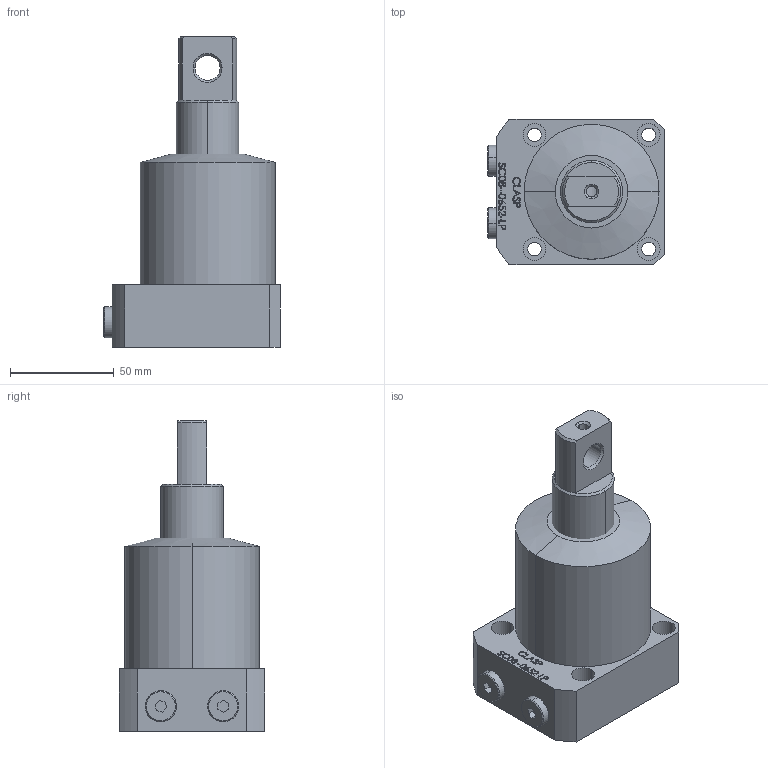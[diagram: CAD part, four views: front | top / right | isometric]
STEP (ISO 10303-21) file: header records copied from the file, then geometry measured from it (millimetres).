
FILE_DESCRIPTION (( 'STEP AP203' ), '1' );
FILE_NAME ('SC08-0652-LP.STEP', '2022-07-08T17:03:40', ( '' ), ( '' ), 'SwSTEP 2.0', 'SolidWorks 2017', '' );
FILE_SCHEMA (( 'CONFIG_CONTROL_DESIGN' ));
Length unit declared in the file: millimetre
Products named in the file (4): SC-08-0652-LP  BODY; SC-08-0652-LP-Piston; SC-08-0652-LP-05 plug; SC08-0652-LP
Assembly tree (4 placements, depth 2):
  SC08-0652-LP
    SC-08-0652-LP  BODY
    SC-08-0652-LP-Piston
    SC-08-0652-LP-05 plug  x2
Bounding box: 85 x 70 x 149.5 mm (x, y, z)
Volume: 406074.2 mm3; surface area: 46867.3 mm2
Topology: 4 solids, 4 shells, 334 faces, 830 edges, 546 vertices
Faces by surface type: plane 146, bspline 118, cylinder 50, cone 20
Entity records: 16654 total; most frequent: CARTESIAN_POINT 9272, ORIENTED_EDGE 1596, DIRECTION 1084, EDGE_CURVE 798, VERTEX_POINT 526, VECTOR 444, LINE 444, EDGE_LOOP 372
